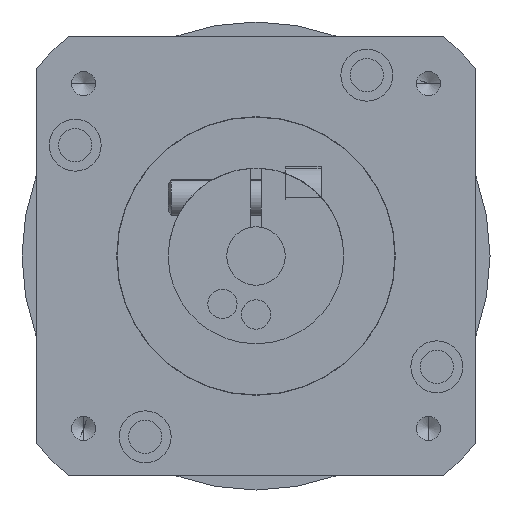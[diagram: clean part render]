
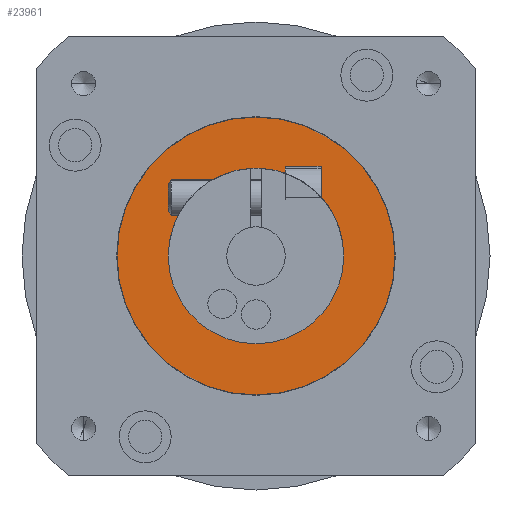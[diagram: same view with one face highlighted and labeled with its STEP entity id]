
A CAD part, front view. The second image highlights one B-rep face of the part: STEP entity #23961.
In plain terms, the highlighted planar face has unit normal (0, -1, 0).
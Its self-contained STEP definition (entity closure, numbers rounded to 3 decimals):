
#2553 = FACE_OUTER_BOUND ( 'NONE', #18747, .T. ) ;
#2584 = FACE_BOUND ( 'NONE', #19963, .T. ) ;
#2946 = VERTEX_POINT ( 'NONE', #33548 ) ;
#3161 = AXIS2_PLACEMENT_3D ( 'NONE', #18382, #18339, #18301 ) ;
#3708 = CARTESIAN_POINT ( 'NONE',  ( 0., -21., 19. ) ) ;
#3730 = CIRCLE ( 'NONE', #3161, 19. ) ;
#5574 = AXIS2_PLACEMENT_3D ( 'NONE', #27563, #11603, #30167 ) ;
#5730 = EDGE_CURVE ( 'NONE', #31102, #21404, #3730, .T. ) ;
#6043 = PLANE ( 'NONE',  #8060 ) ;
#7434 = CARTESIAN_POINT ( 'NONE',  ( 0., -21., -19. ) ) ;
#7751 = EDGE_CURVE ( 'NONE', #21404, #31102, #30561, .T. ) ;
#8060 = AXIS2_PLACEMENT_3D ( 'NONE', #11232, #24867, #8716 ) ;
#8716 = DIRECTION ( 'NONE',  ( 0., 0., 1. ) ) ;
#8971 = DIRECTION ( 'NONE',  ( 0., 0., 1. ) ) ;
#9043 = DIRECTION ( 'NONE',  ( 0., -1., 0. ) ) ;
#9053 = CARTESIAN_POINT ( 'NONE',  ( 0., -21., 0. ) ) ;
#10846 = VERTEX_POINT ( 'NONE', #18353 ) ;
#11232 = CARTESIAN_POINT ( 'NONE',  ( 19., -21., 0. ) ) ;
#11603 = DIRECTION ( 'NONE',  ( 0., -1., 0. ) ) ;
#12199 = CARTESIAN_POINT ( 'NONE',  ( 0., -21., 0. ) ) ;
#13118 = AXIS2_PLACEMENT_3D ( 'NONE', #12199, #30690, #14908 ) ;
#14908 = DIRECTION ( 'NONE',  ( 0., 0., 1. ) ) ;
#15019 = ORIENTED_EDGE ( 'NONE', *, *, #5730, .T. ) ;
#15022 = CIRCLE ( 'NONE', #5574, 12. ) ;
#18301 = DIRECTION ( 'NONE',  ( 0., 0., 1. ) ) ;
#18339 = DIRECTION ( 'NONE',  ( 0., -1., 0. ) ) ;
#18353 = CARTESIAN_POINT ( 'NONE',  ( 0., -21., 12. ) ) ;
#18382 = CARTESIAN_POINT ( 'NONE',  ( 0., -21., 0. ) ) ;
#18747 = EDGE_LOOP ( 'NONE', ( #15019, #26950 ) ) ;
#19963 = EDGE_LOOP ( 'NONE', ( #29167, #31372 ) ) ;
#20960 = EDGE_CURVE ( 'NONE', #10846, #2946, #15022, .T. ) ;
#21404 = VERTEX_POINT ( 'NONE', #7434 ) ;
#23208 = CIRCLE ( 'NONE', #13118, 12. ) ;
#23961 = ADVANCED_FACE ( 'NONE', ( #2553, #2584 ), #6043, .F. ) ;
#24867 = DIRECTION ( 'NONE',  ( 0., 1., 0. ) ) ;
#26793 = EDGE_CURVE ( 'NONE', #2946, #10846, #23208, .T. ) ;
#26950 = ORIENTED_EDGE ( 'NONE', *, *, #7751, .T. ) ;
#27563 = CARTESIAN_POINT ( 'NONE',  ( 0., -21., 0. ) ) ;
#29167 = ORIENTED_EDGE ( 'NONE', *, *, #20960, .F. ) ;
#30167 = DIRECTION ( 'NONE',  ( 0., 0., 1. ) ) ;
#30561 = CIRCLE ( 'NONE', #33742, 19. ) ;
#30690 = DIRECTION ( 'NONE',  ( 0., -1., 0. ) ) ;
#31102 = VERTEX_POINT ( 'NONE', #3708 ) ;
#31372 = ORIENTED_EDGE ( 'NONE', *, *, #26793, .F. ) ;
#33548 = CARTESIAN_POINT ( 'NONE',  ( 0., -21., -12. ) ) ;
#33742 = AXIS2_PLACEMENT_3D ( 'NONE', #9053, #9043, #8971 ) ;
